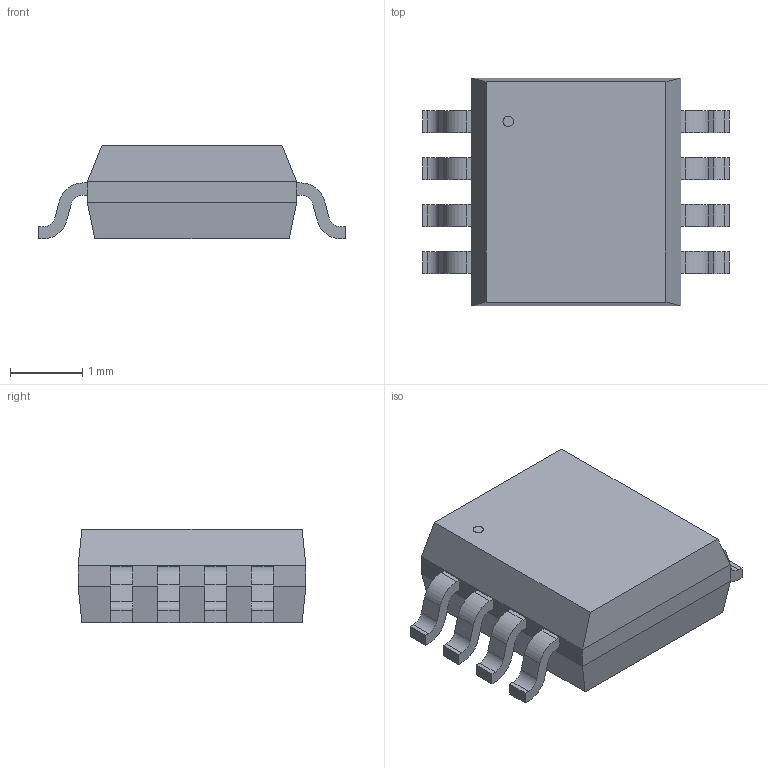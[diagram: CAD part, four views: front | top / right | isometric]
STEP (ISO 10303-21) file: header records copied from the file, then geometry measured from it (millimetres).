
FILE_DESCRIPTION(('STEP AP214'),'1');
FILE_NAME('DCT8','2024-04-08T04:30:08',(''),(''),'','','');
FILE_SCHEMA(('AUTOMOTIVE_DESIGN'));
Length unit declared in the file: millimetre
Products named in the file (1): product
Bounding box: 4.24 x 3.15 x 1.3 mm (x, y, z)
Volume: 11.6 mm3; surface area: 40 mm2
Topology: 10 solids, 10 shells, 129 faces, 319 edges, 210 vertices
Faces by surface type: plane 96, cylinder 33
Full cylindrical faces by diameter (mm): 0.145 x1
Entity records: 3789 total; most frequent: DIRECTION 646, ORIENTED_EDGE 636, CARTESIAN_POINT 375, EDGE_CURVE 318, LINE 252, VECTOR 252, VERTEX_POINT 210, AXIS2_PLACEMENT_3D 197
